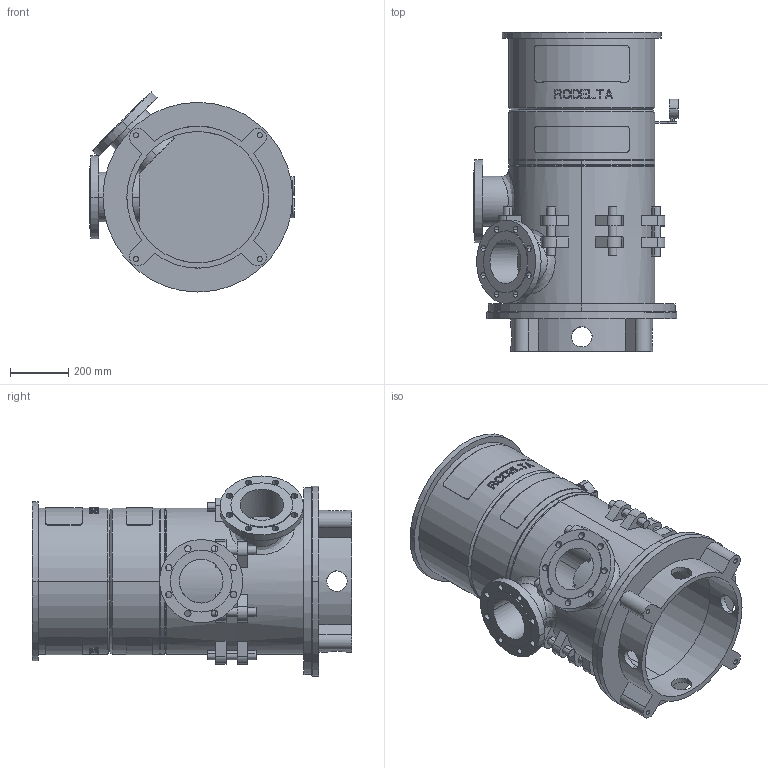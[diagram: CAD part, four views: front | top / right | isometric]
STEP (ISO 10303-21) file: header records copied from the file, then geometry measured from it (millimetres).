
FILE_DESCRIPTION((''),'2;1');
FILE_NAME('LS6_1TR_0GR_ABOVE_30KW','2023-08-11T',('Lyritlocal'),(''),'PRO/ENGINEER BY PARAMETRIC TECHNOLOGY CORPORATION, 2016360','PRO/ENGINEER BY PARAMETRIC TECHNOLOGY CORPORATION, 2016360','');
FILE_SCHEMA(('CONFIG_CONTROL_DESIGN'));
Length unit declared in the file: millimetre
Products named in the file (1): LS6_1TR_0GR_ABOVE_30KW
Bounding box: 700 x 1093 x 685.27 mm (x, y, z)
Volume: 40978967.5 mm3; surface area: 5286697.3 mm2
Topology: 3 solids, 7 shells, 684 faces, 1767 edges, 1174 vertices
Faces by surface type: plane 422, cylinder 242, cone 12, bspline 8
Entity records: 22767 total; most frequent: CARTESIAN_POINT 6155, ORIENTED_EDGE 3518, DIRECTION 3273, EDGE_CURVE 1767, AXIS2_PLACEMENT_3D 1237, VERTEX_POINT 1174, EDGE_LOOP 829, VECTOR 799
